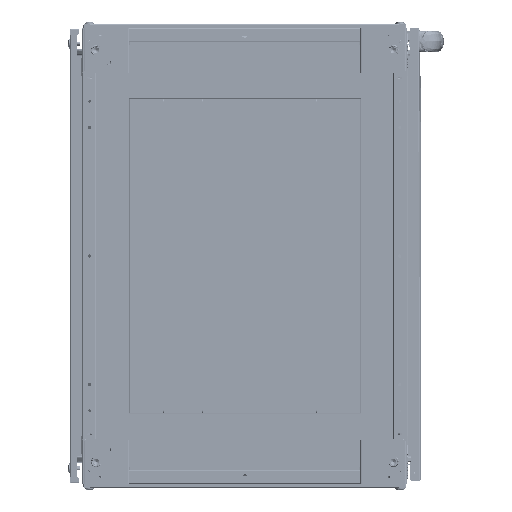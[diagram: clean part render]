
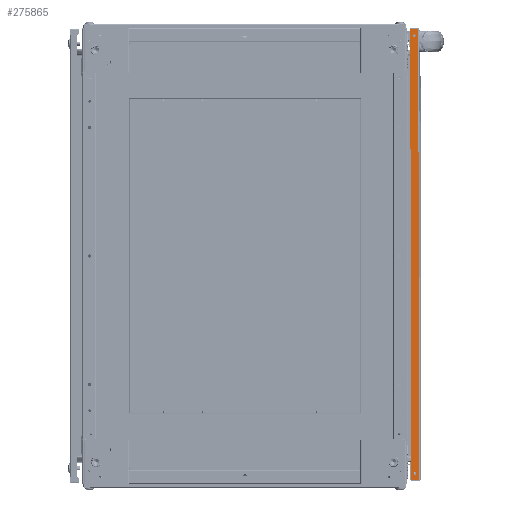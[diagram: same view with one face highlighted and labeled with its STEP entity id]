
A CAD part, front view. The second image highlights one B-rep face of the part: STEP entity #275865.
In plain terms, the highlighted planar face has unit normal (0, -1, 0) as drawn and (-1, 0, 0) by its records, which use the part's own axes.
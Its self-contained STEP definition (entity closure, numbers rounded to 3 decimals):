
#13483 = EDGE_CURVE ( 'NONE', #171229, #23749, #541991, .T. ) ;
#14753 = DIRECTION ( 'NONE',  ( 1., 0., 0. ) ) ;
#15225 = CARTESIAN_POINT ( 'NONE',  ( -2.01, 9., -777. ) ) ;
#16682 = VERTEX_POINT ( 'NONE', #668739 ) ;
#18759 = VECTOR ( 'NONE', #655548, 1000. ) ;
#23749 = VERTEX_POINT ( 'NONE', #93427 ) ;
#68272 = CARTESIAN_POINT ( 'NONE',  ( -2.01, 16., -788. ) ) ;
#79147 = DIRECTION ( 'NONE',  ( 1., 0., 0. ) ) ;
#80129 = EDGE_CURVE ( 'NONE', #409553, #16682, #242443, .T. ) ;
#93089 = ORIENTED_EDGE ( 'NONE', *, *, #317775, .T. ) ;
#93427 = CARTESIAN_POINT ( 'NONE',  ( -2.01, 16., 0. ) ) ;
#96657 = VERTEX_POINT ( 'NONE', #336688 ) ;
#102894 = CARTESIAN_POINT ( 'NONE',  ( -2.01, 9., -13.3 ) ) ;
#105386 = CARTESIAN_POINT ( 'NONE',  ( -2.01, 16., -788. ) ) ;
#110765 = VECTOR ( 'NONE', #269805, 1000. ) ;
#114875 = ORIENTED_EDGE ( 'NONE', *, *, #709197, .T. ) ;
#119668 = LINE ( 'NONE', #68272, #301536 ) ;
#121759 = EDGE_CURVE ( 'NONE', #608367, #656936, #177450, .T. ) ;
#142496 = AXIS2_PLACEMENT_3D ( 'NONE', #254953, #79147, #709633 ) ;
#144739 = ORIENTED_EDGE ( 'NONE', *, *, #13483, .T. ) ;
#146034 = DIRECTION ( 'NONE',  ( 0., 1., 0. ) ) ;
#162371 = DIRECTION ( 'NONE',  ( 0., 0., -1. ) ) ;
#171229 = VERTEX_POINT ( 'NONE', #571555 ) ;
#177450 = CIRCLE ( 'NONE', #681046, 2.3 ) ;
#187061 = ORIENTED_EDGE ( 'NONE', *, *, #80129, .T. ) ;
#214872 = LINE ( 'NONE', #618003, #110765 ) ;
#219275 = ORIENTED_EDGE ( 'NONE', *, *, #121759, .T. ) ;
#238832 = DIRECTION ( 'NONE',  ( 0., 0., -1. ) ) ;
#242443 = CIRCLE ( 'NONE', #652438, 2.3 ) ;
#252894 = CARTESIAN_POINT ( 'NONE',  ( -2.01, 16., -788. ) ) ;
#254953 = CARTESIAN_POINT ( 'NONE',  ( -2.01, 16., -788. ) ) ;
#269805 = DIRECTION ( 'NONE',  ( 0., 0., -1. ) ) ;
#272310 = DIRECTION ( 'NONE',  ( 1., 0., 0. ) ) ;
#275865 = ADVANCED_FACE ( 'NONE', ( #485931, #651007, #416419 ), #647395, .F. ) ;
#299753 = EDGE_CURVE ( 'NONE', #23749, #470875, #119668, .T. ) ;
#301536 = VECTOR ( 'NONE', #336068, 1000. ) ;
#317775 = EDGE_CURVE ( 'NONE', #470875, #96657, #611355, .T. ) ;
#336068 = DIRECTION ( 'NONE',  ( 0., 0., -1. ) ) ;
#336688 = CARTESIAN_POINT ( 'NONE',  ( -2.01, 2.01, -788. ) ) ;
#341427 = CARTESIAN_POINT ( 'NONE',  ( -2.01, 9., -779.3 ) ) ;
#389036 = EDGE_LOOP ( 'NONE', ( #499860, #219275 ) ) ;
#393175 = CARTESIAN_POINT ( 'NONE',  ( -2.01, 9., -11. ) ) ;
#409553 = VERTEX_POINT ( 'NONE', #341427 ) ;
#416419 = FACE_OUTER_BOUND ( 'NONE', #707423, .T. ) ;
#443285 = CARTESIAN_POINT ( 'NONE',  ( -2.01, 9., -8.7 ) ) ;
#470875 = VERTEX_POINT ( 'NONE', #252894 ) ;
#470951 = CIRCLE ( 'NONE', #576691, 2.3 ) ;
#483042 = VECTOR ( 'NONE', #146034, 1000. ) ;
#485931 = FACE_BOUND ( 'NONE', #637421, .T. ) ;
#492823 = DIRECTION ( 'NONE',  ( 1., 0., 0. ) ) ;
#499860 = ORIENTED_EDGE ( 'NONE', *, *, #689912, .T. ) ;
#524759 = DIRECTION ( 'NONE',  ( 1., 0., 0. ) ) ;
#541991 = LINE ( 'NONE', #648377, #483042 ) ;
#558686 = CARTESIAN_POINT ( 'NONE',  ( -2.01, 9., -777. ) ) ;
#571555 = CARTESIAN_POINT ( 'NONE',  ( -2.01, 2.01, 0. ) ) ;
#574804 = ORIENTED_EDGE ( 'NONE', *, *, #714470, .F. ) ;
#576691 = AXIS2_PLACEMENT_3D ( 'NONE', #15225, #524759, #238832 ) ;
#578203 = CIRCLE ( 'NONE', #671956, 2.3 ) ;
#608367 = VERTEX_POINT ( 'NONE', #443285 ) ;
#611355 = LINE ( 'NONE', #105386, #18759 ) ;
#618003 = CARTESIAN_POINT ( 'NONE',  ( -2.01, 2.01, -788. ) ) ;
#623553 = DIRECTION ( 'NONE',  ( 0., 0., -1. ) ) ;
#637421 = EDGE_LOOP ( 'NONE', ( #187061, #114875 ) ) ;
#647395 = PLANE ( 'NONE',  #142496 ) ;
#648377 = CARTESIAN_POINT ( 'NONE',  ( -2.01, 16., 0. ) ) ;
#651007 = FACE_BOUND ( 'NONE', #389036, .T. ) ;
#652438 = AXIS2_PLACEMENT_3D ( 'NONE', #558686, #492823, #716531 ) ;
#655548 = DIRECTION ( 'NONE',  ( 0., -1., 0. ) ) ;
#656936 = VERTEX_POINT ( 'NONE', #102894 ) ;
#668367 = ORIENTED_EDGE ( 'NONE', *, *, #299753, .T. ) ;
#668739 = CARTESIAN_POINT ( 'NONE',  ( -2.01, 9., -774.7 ) ) ;
#671956 = AXIS2_PLACEMENT_3D ( 'NONE', #393175, #272310, #162371 ) ;
#678595 = CARTESIAN_POINT ( 'NONE',  ( -2.01, 9., -11. ) ) ;
#681046 = AXIS2_PLACEMENT_3D ( 'NONE', #678595, #14753, #623553 ) ;
#689912 = EDGE_CURVE ( 'NONE', #656936, #608367, #578203, .T. ) ;
#707423 = EDGE_LOOP ( 'NONE', ( #574804, #144739, #668367, #93089 ) ) ;
#709197 = EDGE_CURVE ( 'NONE', #16682, #409553, #470951, .T. ) ;
#709633 = DIRECTION ( 'NONE',  ( 0., 1., 0. ) ) ;
#714470 = EDGE_CURVE ( 'NONE', #171229, #96657, #214872, .T. ) ;
#716531 = DIRECTION ( 'NONE',  ( 0., 0., -1. ) ) ;
